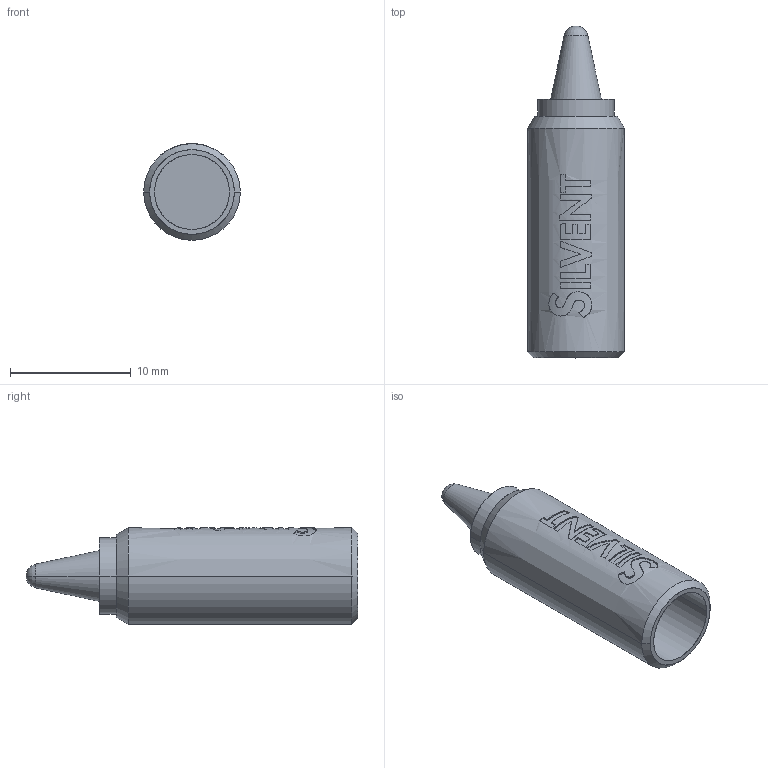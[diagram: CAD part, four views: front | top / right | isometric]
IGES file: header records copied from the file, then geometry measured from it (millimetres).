
Start section: SolidWorks IGES FILE using analytic representation for surfaces
Global section: file name: G:\Silvent\Ritningar\Övrigt\IGES\Silvent 0071.IGS; native system: SolidWorks 2003 by SolidWorks Corporation; preprocessor: Version 5.3; author: Ulf; date: 030923.133327; units: millimetre
Bounding box: 8 x 27.47 x 8 mm (x, y, z)
Surface area: 817.9 mm2 (no closed solid volume)
Topology: 0 solids, 0 shells, 148 faces, 1180 edges, 1178 vertices
Faces by surface type: revolution 96, bspline 52
